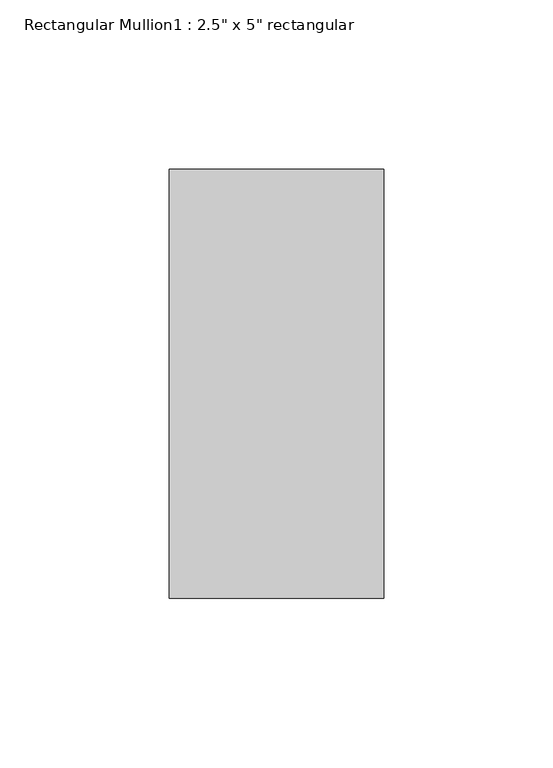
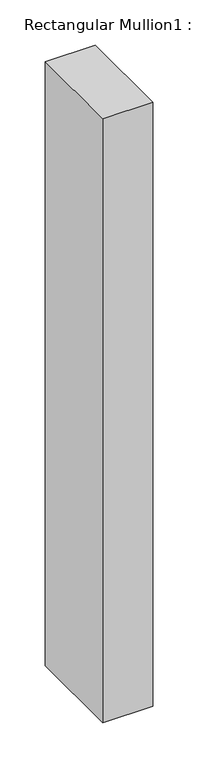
"""IFC4 building model written with IfcOpenShell, lengths in millimetres: member geometry."""

from ifc_helpers import new_model, si_unit, frame, origin, place, context, project, spatial, polyline, outline, extrude, source, transform, mapped, element, save


def member_4cca5116(model_context):
    return source(origin(), model_context, "Body", "SweptSolid", [
        extrude(outline(polyline([(31.75, 63.5), (31.75, -63.5), (-31.75, -63.5), (-31.75, 63.5), (31.75, 63.5)])), frame((0.0, 0.0, -813.7989637), z_axis=(0.0, 0.0, 1.0), x_axis=(1.0, 0.0, 0.0)), (0.0, 0.0, 1.0), 813.7989637),
    ])


if __name__ == "__main__":
    model = new_model("IFC4")
    model_context = context("Model", 3, world=origin())
    ifc_project = project(units=[si_unit("LENGTHUNIT", "METRE", prefix="MILLI")], contexts=[model_context])
    site = spatial("IfcSite", under=ifc_project)
    building = spatial("IfcBuilding", under=site)
    placement = place(None, origin())
    member_shape = member_4cca5116(model_context)
    element("IfcMember", 1, ObjectType="Rectangular Mullion1 : 2.5\" x 5\" rectangular", at=placement, inside=building, context=model_context, shape_type="MappedRepresentation", body=[
        mapped(member_shape, transform((0.0, 0.0, 0.0), x_axis=(1.0, 0.0, 0.0), y_axis=(0.0, 1.0, 0.0), z_axis=(0.0, 0.0, 1.0))),
    ])
    save(model, "model.ifc")
